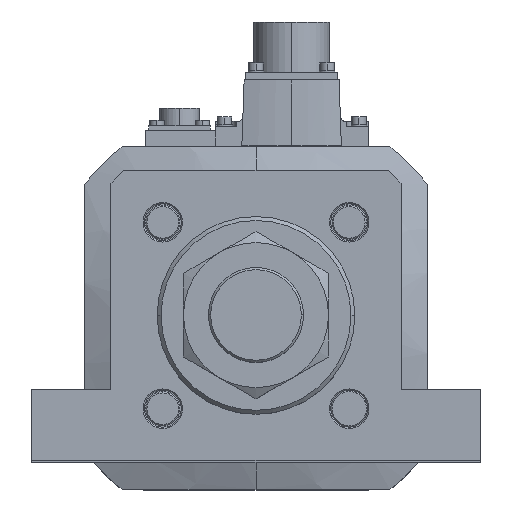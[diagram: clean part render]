
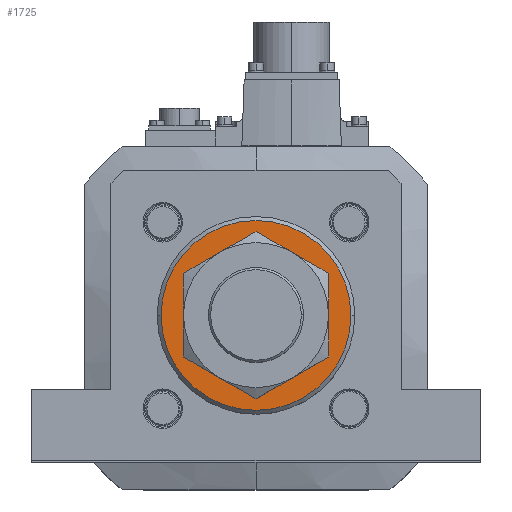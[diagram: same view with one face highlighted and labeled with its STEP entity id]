
A CAD part, top view. The second image highlights one B-rep face of the part: STEP entity #1725.
In plain terms, the highlighted planar face has unit normal (0, 0, 1).
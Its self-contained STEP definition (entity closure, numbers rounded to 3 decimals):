
#995 = CARTESIAN_POINT ( 'NONE',  ( -23., 0., 346. ) ) ;
#1176 = FACE_BOUND ( 'NONE', #13747, .T. ) ;
#1413 = CIRCLE ( 'NONE', #29549, 23. ) ;
#1657 = ORIENTED_EDGE ( 'NONE', *, *, #31962, .T. ) ;
#1725 = ADVANCED_FACE ( 'NONE', ( #1176, #34406 ), #4785, .T. ) ;
#2455 = CARTESIAN_POINT ( 'NONE',  ( 0., 0., 346. ) ) ;
#3024 = CIRCLE ( 'NONE', #3445, 36. ) ;
#3445 = AXIS2_PLACEMENT_3D ( 'NONE', #5828, #8788, #29430 ) ;
#4124 = ORIENTED_EDGE ( 'NONE', *, *, #25690, .T. ) ;
#4181 = DIRECTION ( 'NONE',  ( 1., 0., 0. ) ) ;
#4301 = DIRECTION ( 'NONE',  ( 0., 0., -1. ) ) ;
#4785 = PLANE ( 'NONE',  #25011 ) ;
#5828 = CARTESIAN_POINT ( 'NONE',  ( 0., 0., 346. ) ) ;
#7660 = EDGE_CURVE ( 'NONE', #11676, #28242, #3024, .T. ) ;
#8342 = EDGE_LOOP ( 'NONE', ( #35653, #4124 ) ) ;
#8788 = DIRECTION ( 'NONE',  ( 0., 0., 1. ) ) ;
#8855 = AXIS2_PLACEMENT_3D ( 'NONE', #14050, #13920, #37506 ) ;
#9630 = CARTESIAN_POINT ( 'NONE',  ( 36., 0., 346. ) ) ;
#11676 = VERTEX_POINT ( 'NONE', #26107 ) ;
#12552 = DIRECTION ( 'NONE',  ( 1., 0., 0. ) ) ;
#13062 = DIRECTION ( 'NONE',  ( 0., 0., 1. ) ) ;
#13747 = EDGE_LOOP ( 'NONE', ( #22975, #1657 ) ) ;
#13920 = DIRECTION ( 'NONE',  ( 0., 0., -1. ) ) ;
#14050 = CARTESIAN_POINT ( 'NONE',  ( 0., 0., 346. ) ) ;
#16560 = CARTESIAN_POINT ( 'NONE',  ( 23., 0., 346. ) ) ;
#16989 = AXIS2_PLACEMENT_3D ( 'NONE', #36156, #13062, #12552 ) ;
#19190 = VERTEX_POINT ( 'NONE', #995 ) ;
#22449 = CIRCLE ( 'NONE', #8855, 23. ) ;
#22975 = ORIENTED_EDGE ( 'NONE', *, *, #26583, .T. ) ;
#25011 = AXIS2_PLACEMENT_3D ( 'NONE', #2455, #31995, #37666 ) ;
#25690 = EDGE_CURVE ( 'NONE', #28242, #11676, #36782, .T. ) ;
#26107 = CARTESIAN_POINT ( 'NONE',  ( -36., 0., 346. ) ) ;
#26583 = EDGE_CURVE ( 'NONE', #35125, #19190, #22449, .T. ) ;
#28242 = VERTEX_POINT ( 'NONE', #9630 ) ;
#29430 = DIRECTION ( 'NONE',  ( 1., 0., 0. ) ) ;
#29549 = AXIS2_PLACEMENT_3D ( 'NONE', #33707, #4301, #4181 ) ;
#31962 = EDGE_CURVE ( 'NONE', #19190, #35125, #1413, .T. ) ;
#31995 = DIRECTION ( 'NONE',  ( 0., 0., 1. ) ) ;
#33707 = CARTESIAN_POINT ( 'NONE',  ( 0., 0., 346. ) ) ;
#34406 = FACE_OUTER_BOUND ( 'NONE', #8342, .T. ) ;
#35125 = VERTEX_POINT ( 'NONE', #16560 ) ;
#35653 = ORIENTED_EDGE ( 'NONE', *, *, #7660, .T. ) ;
#36156 = CARTESIAN_POINT ( 'NONE',  ( 0., 0., 346. ) ) ;
#36782 = CIRCLE ( 'NONE', #16989, 36. ) ;
#37506 = DIRECTION ( 'NONE',  ( 1., 0., 0. ) ) ;
#37666 = DIRECTION ( 'NONE',  ( 1., 0., 0. ) ) ;
